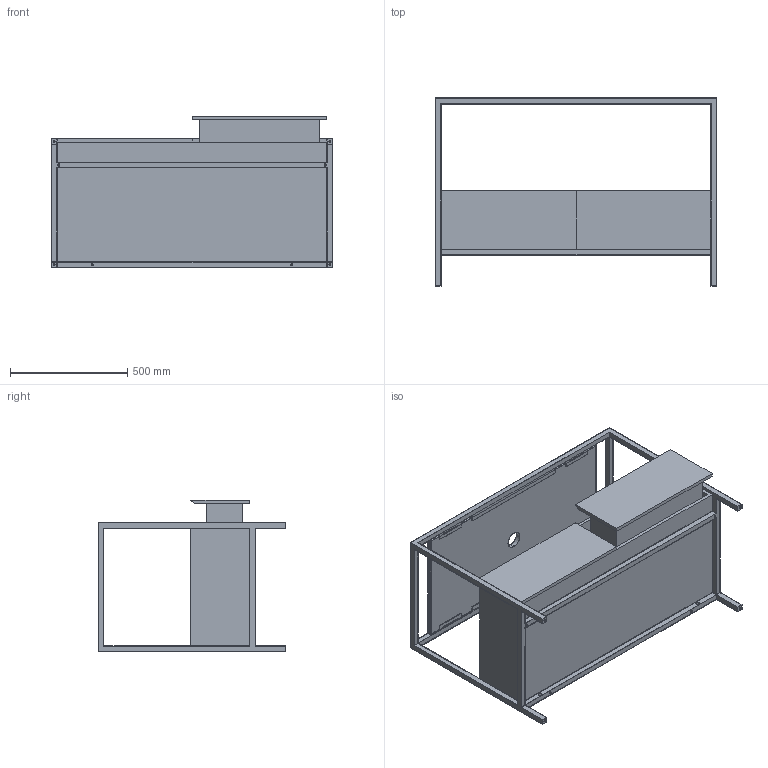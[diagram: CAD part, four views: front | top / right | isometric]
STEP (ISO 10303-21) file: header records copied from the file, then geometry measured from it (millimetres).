
FILE_DESCRIPTION (( 'STEP AP203' ), '1' );
FILE_NAME ('STA 120 02.STEP', '2019-02-04T13:37:30', ( '' ), ( '' ), 'SwSTEP 2.0', 'SolidWorks 2019', '' );
FILE_SCHEMA (( 'CONFIG_CONTROL_DESIGN' ));
Length unit declared in the file: millimetre
Products named in the file (8): assieme CASSETTONE 120; CASSETTO 57,5; SCOCCA STAND 120; struttura STAND 120; Ass STAND 120 PIANO 100 1f; PIANO MISURA 1000X495 2f; STA 120 02; PIANO MISURA 1000X495 1f
Assembly tree (8 placements, depth 3):
  STA 120 02
    Ass STAND 120 PIANO 100 1f
      struttura STAND 120
      PIANO MISURA 1000X495 1f
    PIANO MISURA 1000X495 2f
    assieme CASSETTONE 120
      SCOCCA STAND 120
      CASSETTO 57,5  x2
Bounding box: 1200 x 800 x 645.03 mm (x, y, z)
Volume: 58718508.7 mm3; surface area: 10302026.6 mm2
Topology: 6 solids, 6 shells, 254 faces, 664 edges, 400 vertices
Faces by surface type: plane 170, cylinder 68, sphere 16
Entity records: 8108 total; most frequent: DIRECTION 1252, CARTESIAN_POINT 1240, ORIENTED_EDGE 1224, EDGE_CURVE 612, LINE 476, VECTOR 476, AXIS2_PLACEMENT_3D 388, VERTEX_POINT 376
